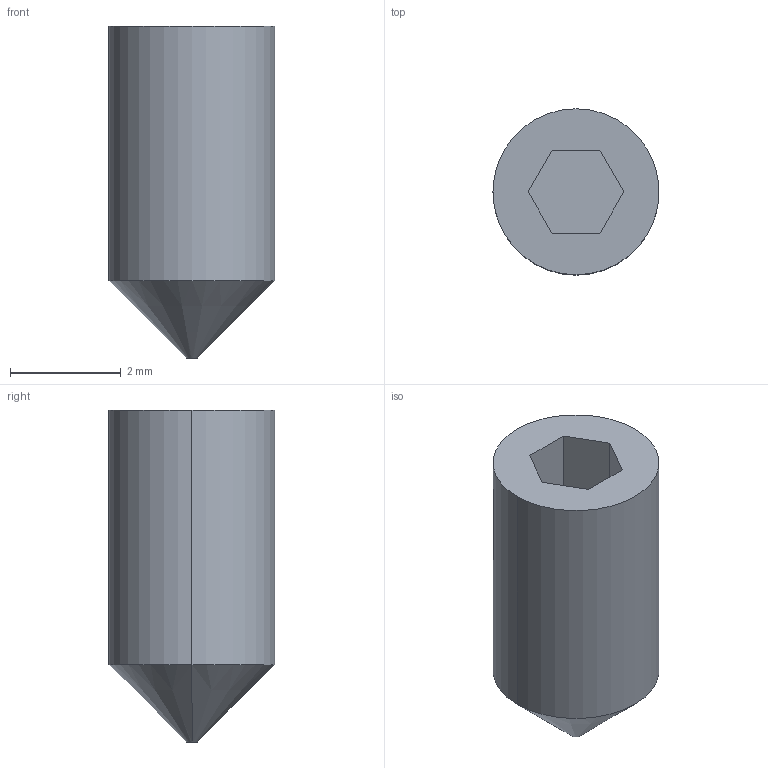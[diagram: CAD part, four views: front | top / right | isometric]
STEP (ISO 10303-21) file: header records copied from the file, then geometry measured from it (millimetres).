
FILE_DESCRIPTION (( 'STEP AP214' ), '1' );
FILE_NAME ('M3 Set Screw.STEP', '2015-02-13T10:16:49', ( '' ), ( '' ), 'SwSTEP 2.0', 'SolidWorks 2012', '' );
FILE_SCHEMA (( 'AUTOMOTIVE_DESIGN' ));
Length unit declared in the file: millimetre
Products named in the file (1): M3 Set Screw
Bounding box: 3 x 3 x 6 mm (x, y, z)
Volume: 33.7 mm3; surface area: 66.6 mm2
Topology: 1 solids, 1 shells, 13 faces, 28 edges, 18 vertices
Faces by surface type: plane 9, cone 2, cylinder 2
Entity records: 408 total; most frequent: DIRECTION 62, CARTESIAN_POINT 60, ORIENTED_EDGE 56, EDGE_CURVE 28, LINE 22, VECTOR 22, AXIS2_PLACEMENT_3D 20, VERTEX_POINT 18
